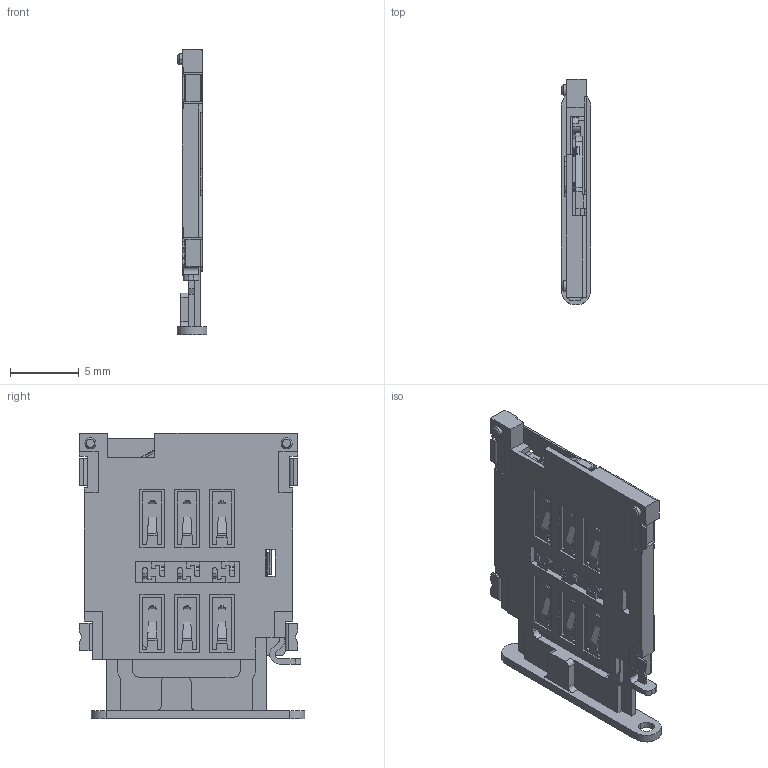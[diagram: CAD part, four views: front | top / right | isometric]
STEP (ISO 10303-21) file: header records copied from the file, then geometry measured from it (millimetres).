
FILE_DESCRIPTION((''),'2;1');
FILE_NAME('ASM0010_ASM','2024-04-12T20:21:50',('Administrator'),(''),'CREO PARAMETRIC BY PTC INC, 2020053','CREO PARAMETRIC BY PTC INC, 2020053','');
FILE_SCHEMA(('AUTOMOTIVE_DESIGN { 1 0 10303 214 1 1 1 1 }'));
Length unit declared in the file: millimetre
Products named in the file (5): NANO_SIM_CARD-TRAY_2_1_1_2; NANO-SIM_CARD_1_1_2; NANO-SIM_CARD_ASM_1_1_2_ASM; ASM0011_ASM; ASM0010_ASM
Assembly tree (4 placements, depth 4):
  ASM0010_ASM
    ASM0011_ASM
      NANO-SIM_CARD_ASM_1_1_2_ASM
        NANO_SIM_CARD-TRAY_2_1_1_2
        NANO-SIM_CARD_1_1_2
Bounding box: 2.16 x 16.44 x 20.83 mm (x, y, z)
Volume: 154.2 mm3; surface area: 1547 mm2
Topology: 2 solids, 3 shells, 715 faces, 2059 edges, 1360 vertices
Faces by surface type: plane 488, cylinder 203, extrusion 14, cone 6, sphere 4
Entity records: 23731 total; most frequent: CARTESIAN_POINT 4352, ORIENTED_EDGE 4110, DIRECTION 3858, EDGE_CURVE 2055, VECTOR 1602, LINE 1588, VERTEX_POINT 1360, AXIS2_PLACEMENT_3D 1128
